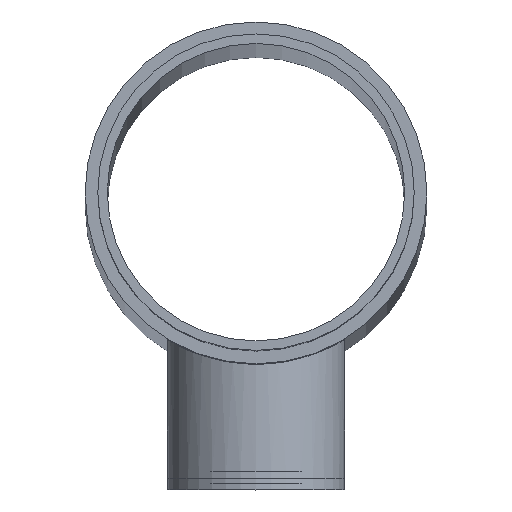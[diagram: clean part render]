
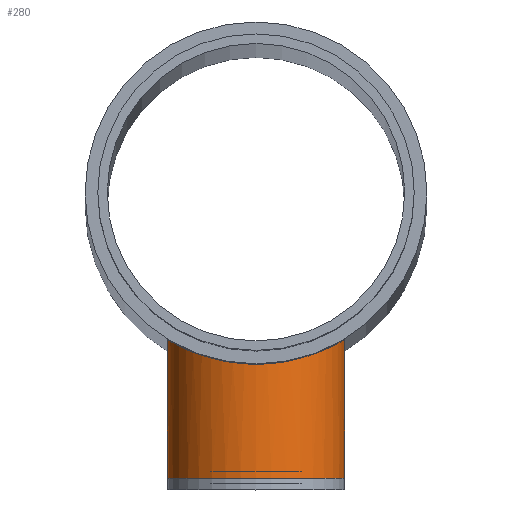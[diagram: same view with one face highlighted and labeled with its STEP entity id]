
A CAD part, top view. The second image highlights one B-rep face of the part: STEP entity #280.
In plain terms, the highlighted cylindrical face has radius 14 mm (diameter 28 mm), a full revolution.
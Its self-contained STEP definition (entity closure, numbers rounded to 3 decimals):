
#29=B_SPLINE_CURVE_WITH_KNOTS('',3,(#494,#495,#496,#497,#498,#499,#500,
#501,#502,#503,#504,#505,#506,#507,#508,#509,#510,#511,#512,#513,#514,#515,
#516,#517,#518,#519),.UNSPECIFIED.,.F.,.F.,(4,2,2,2,2,2,2,2,2,2,2,2,4),
(0.,0.27,0.54,1.08,1.618,
1.887,2.156,2.426,2.695,3.233,
3.773,4.043,4.313),.UNSPECIFIED.);
#30=B_SPLINE_CURVE_WITH_KNOTS('',3,(#520,#521,#522,#523,#524,#525,#526,
#527,#528,#529,#530,#531,#532,#533,#534,#535,#536,#537,#538,#539,#540,#541,
#542,#543,#544,#545),.UNSPECIFIED.,.F.,.F.,(4,2,2,2,2,2,2,2,2,2,2,2,4),
(4.313,4.583,4.853,5.393,5.931,
6.2,6.469,6.738,7.007,7.546,
8.086,8.356,8.626),.UNSPECIFIED.);
#37=LINE('',#547,#47);
#47=VECTOR('',#372,14.);
#57=CYLINDRICAL_SURFACE('',#321,14.);
#80=FACE_OUTER_BOUND('',#101,.T.);
#101=EDGE_LOOP('',(#212,#213,#214,#215,#216));
#130=CIRCLE('',#322,14.);
#148=VERTEX_POINT('',#492);
#149=VERTEX_POINT('',#493);
#150=VERTEX_POINT('',#546);
#174=EDGE_CURVE('',#148,#149,#29,.T.);
#175=EDGE_CURVE('',#149,#148,#30,.T.);
#176=EDGE_CURVE('',#149,#150,#37,.T.);
#177=EDGE_CURVE('',#150,#150,#130,.T.);
#212=ORIENTED_EDGE('',*,*,#174,.F.);
#213=ORIENTED_EDGE('',*,*,#175,.F.);
#214=ORIENTED_EDGE('',*,*,#176,.T.);
#215=ORIENTED_EDGE('',*,*,#177,.T.);
#216=ORIENTED_EDGE('',*,*,#176,.F.);
#280=ADVANCED_FACE('',(#80),#57,.T.);
#321=AXIS2_PLACEMENT_3D('',#491,#370,#371);
#322=AXIS2_PLACEMENT_3D('',#548,#373,#374);
#370=DIRECTION('center_axis',(0.,1.,0.));
#371=DIRECTION('ref_axis',(1.,0.,0.));
#372=DIRECTION('',(0.,-1.,0.));
#373=DIRECTION('center_axis',(0.,1.,0.));
#374=DIRECTION('ref_axis',(1.,0.,0.));
#491=CARTESIAN_POINT('Origin',(0.,-45.,1160.));
#492=CARTESIAN_POINT('',(14.,-23.087,1160.));
#493=CARTESIAN_POINT('',(-14.,-23.087,1160.));
#494=CARTESIAN_POINT('Ctrl Pts',(14.,-23.087,1160.));
#495=CARTESIAN_POINT('Ctrl Pts',(14.,-23.087,1159.1));
#496=CARTESIAN_POINT('Ctrl Pts',(13.912,-23.141,1158.177));
#497=CARTESIAN_POINT('Ctrl Pts',(13.549,-23.355,1156.353));
#498=CARTESIAN_POINT('Ctrl Pts',(13.274,-23.515,1155.453));
#499=CARTESIAN_POINT('Ctrl Pts',(12.195,-24.103,1152.877));
#500=CARTESIAN_POINT('Ctrl Pts',(11.125,-24.637,1151.327));
#501=CARTESIAN_POINT('Ctrl Pts',(8.677,-25.601,1148.878));
#502=CARTESIAN_POINT('Ctrl Pts',(7.126,-26.102,1147.806));
#503=CARTESIAN_POINT('Ctrl Pts',(4.545,-26.629,1146.726));
#504=CARTESIAN_POINT('Ctrl Pts',(3.644,-26.769,1146.45));
#505=CARTESIAN_POINT('Ctrl Pts',(1.819,-26.954,1146.088));
#506=CARTESIAN_POINT('Ctrl Pts',(0.897,-27.,1146.));
#507=CARTESIAN_POINT('Ctrl Pts',(-0.897,-27.,1146.));
#508=CARTESIAN_POINT('Ctrl Pts',(-1.819,-26.954,1146.088));
#509=CARTESIAN_POINT('Ctrl Pts',(-3.644,-26.769,1146.45));
#510=CARTESIAN_POINT('Ctrl Pts',(-4.545,-26.629,1146.726));
#511=CARTESIAN_POINT('Ctrl Pts',(-7.126,-26.102,1147.806));
#512=CARTESIAN_POINT('Ctrl Pts',(-8.677,-25.601,1148.878));
#513=CARTESIAN_POINT('Ctrl Pts',(-11.125,-24.637,1151.327));
#514=CARTESIAN_POINT('Ctrl Pts',(-12.195,-24.103,1152.877));
#515=CARTESIAN_POINT('Ctrl Pts',(-13.274,-23.515,1155.453));
#516=CARTESIAN_POINT('Ctrl Pts',(-13.549,-23.355,1156.353));
#517=CARTESIAN_POINT('Ctrl Pts',(-13.912,-23.141,1158.177));
#518=CARTESIAN_POINT('Ctrl Pts',(-14.,-23.087,1159.1));
#519=CARTESIAN_POINT('Ctrl Pts',(-14.,-23.087,1160.));
#520=CARTESIAN_POINT('Ctrl Pts',(-14.,-23.087,1160.));
#521=CARTESIAN_POINT('Ctrl Pts',(-14.,-23.087,1160.9));
#522=CARTESIAN_POINT('Ctrl Pts',(-13.912,-23.141,1161.823));
#523=CARTESIAN_POINT('Ctrl Pts',(-13.549,-23.355,1163.647));
#524=CARTESIAN_POINT('Ctrl Pts',(-13.274,-23.515,1164.547));
#525=CARTESIAN_POINT('Ctrl Pts',(-12.195,-24.103,1167.123));
#526=CARTESIAN_POINT('Ctrl Pts',(-11.125,-24.637,1168.673));
#527=CARTESIAN_POINT('Ctrl Pts',(-8.677,-25.601,1171.122));
#528=CARTESIAN_POINT('Ctrl Pts',(-7.126,-26.102,1172.194));
#529=CARTESIAN_POINT('Ctrl Pts',(-4.545,-26.629,1173.274));
#530=CARTESIAN_POINT('Ctrl Pts',(-3.644,-26.769,1173.55));
#531=CARTESIAN_POINT('Ctrl Pts',(-1.819,-26.954,1173.912));
#532=CARTESIAN_POINT('Ctrl Pts',(-0.897,-27.,1174.));
#533=CARTESIAN_POINT('Ctrl Pts',(0.897,-27.,1174.));
#534=CARTESIAN_POINT('Ctrl Pts',(1.819,-26.954,1173.912));
#535=CARTESIAN_POINT('Ctrl Pts',(3.644,-26.769,1173.55));
#536=CARTESIAN_POINT('Ctrl Pts',(4.545,-26.629,1173.274));
#537=CARTESIAN_POINT('Ctrl Pts',(7.126,-26.102,1172.194));
#538=CARTESIAN_POINT('Ctrl Pts',(8.677,-25.601,1171.122));
#539=CARTESIAN_POINT('Ctrl Pts',(11.125,-24.637,1168.673));
#540=CARTESIAN_POINT('Ctrl Pts',(12.195,-24.103,1167.123));
#541=CARTESIAN_POINT('Ctrl Pts',(13.274,-23.515,1164.547));
#542=CARTESIAN_POINT('Ctrl Pts',(13.549,-23.355,1163.647));
#543=CARTESIAN_POINT('Ctrl Pts',(13.912,-23.141,1161.823));
#544=CARTESIAN_POINT('Ctrl Pts',(14.,-23.087,1160.9));
#545=CARTESIAN_POINT('Ctrl Pts',(14.,-23.087,1160.));
#546=CARTESIAN_POINT('',(-14.,-45.,1160.));
#547=CARTESIAN_POINT('',(-14.,-45.,1160.));
#548=CARTESIAN_POINT('Origin',(0.,-45.,1160.));
